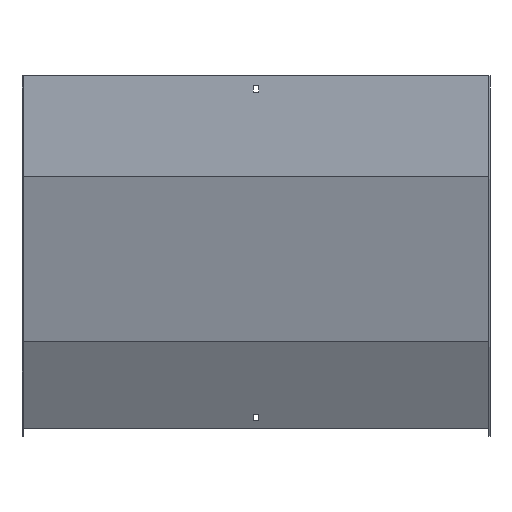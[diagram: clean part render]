
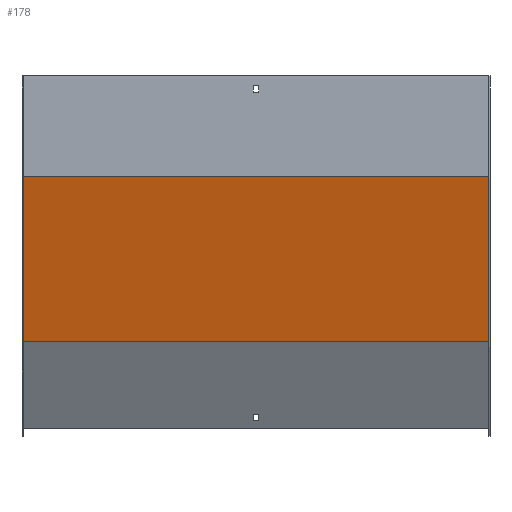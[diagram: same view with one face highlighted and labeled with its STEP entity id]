
A CAD part, front view. The second image highlights one B-rep face of the part: STEP entity #178.
In plain terms, the highlighted planar face has unit normal (0, -0.966, -0.259).
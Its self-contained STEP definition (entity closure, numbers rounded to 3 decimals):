
#4 = ORIENTED_EDGE ( 'NONE', *, *, #382, .T. ) ;
#49 = CARTESIAN_POINT ( 'NONE',  ( 300., -33.949, -9.097 ) ) ;
#81 = LINE ( 'NONE', #349, #570 ) ;
#98 = FACE_OUTER_BOUND ( 'NONE', #789, .T. ) ;
#128 = VECTOR ( 'NONE', #196, 1000. ) ;
#142 = VERTEX_POINT ( 'NONE', #430 ) ;
#162 = CARTESIAN_POINT ( 'NONE',  ( 301.5, -1.449, -130.388 ) ) ;
#178 = ADVANCED_FACE ( 'NONE', ( #98 ), #747, .F. ) ;
#196 = DIRECTION ( 'NONE',  ( 0., 0.259, -0.966 ) ) ;
#236 = VERTEX_POINT ( 'NONE', #702 ) ;
#244 = VECTOR ( 'NONE', #794, 1000. ) ;
#253 = DIRECTION ( 'NONE',  ( -1., 0., 0. ) ) ;
#293 = EDGE_CURVE ( 'NONE', #321, #142, #642, .T. ) ;
#321 = VERTEX_POINT ( 'NONE', #776 ) ;
#349 = CARTESIAN_POINT ( 'NONE',  ( 301.5, -1.5, -130.197 ) ) ;
#354 = DIRECTION ( 'NONE',  ( -1., 0., 0. ) ) ;
#362 = DIRECTION ( 'NONE',  ( 0., 0.966, 0.259 ) ) ;
#382 = EDGE_CURVE ( 'NONE', #236, #646, #664, .T. ) ;
#415 = EDGE_CURVE ( 'NONE', #321, #236, #81, .T. ) ;
#430 = CARTESIAN_POINT ( 'NONE',  ( 300., 55.284, -342.117 ) ) ;
#439 = VECTOR ( 'NONE', #253, 1000. ) ;
#489 = DIRECTION ( 'NONE',  ( 0., -0.259, 0.966 ) ) ;
#570 = VECTOR ( 'NONE', #354, 1000. ) ;
#604 = CARTESIAN_POINT ( 'NONE',  ( -300., 55.284, -342.117 ) ) ;
#609 = CARTESIAN_POINT ( 'NONE',  ( -300., -33.949, -9.097 ) ) ;
#638 = LINE ( 'NONE', #703, #439 ) ;
#642 = LINE ( 'NONE', #49, #128 ) ;
#646 = VERTEX_POINT ( 'NONE', #604 ) ;
#664 = LINE ( 'NONE', #609, #244 ) ;
#673 = ORIENTED_EDGE ( 'NONE', *, *, #293, .F. ) ;
#702 = CARTESIAN_POINT ( 'NONE',  ( -300., -1.5, -130.197 ) ) ;
#703 = CARTESIAN_POINT ( 'NONE',  ( 301.5, 55.284, -342.117 ) ) ;
#722 = EDGE_CURVE ( 'NONE', #142, #646, #638, .T. ) ;
#731 = ORIENTED_EDGE ( 'NONE', *, *, #722, .F. ) ;
#744 = AXIS2_PLACEMENT_3D ( 'NONE', #162, #362, #489 ) ;
#747 = PLANE ( 'NONE',  #744 ) ;
#776 = CARTESIAN_POINT ( 'NONE',  ( 300., -1.5, -130.197 ) ) ;
#789 = EDGE_LOOP ( 'NONE', ( #4, #731, #673, #804 ) ) ;
#794 = DIRECTION ( 'NONE',  ( 0., 0.259, -0.966 ) ) ;
#804 = ORIENTED_EDGE ( 'NONE', *, *, #415, .T. ) ;
